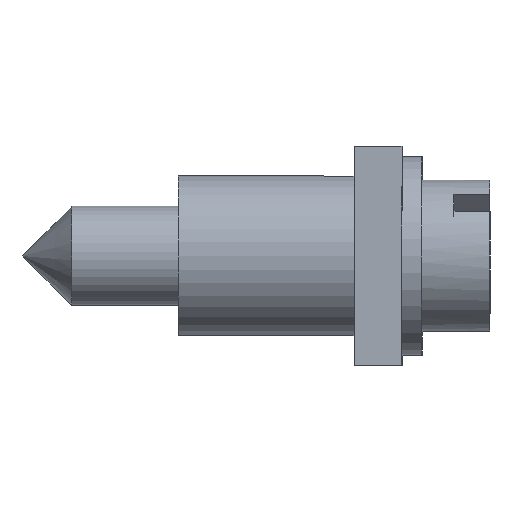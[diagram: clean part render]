
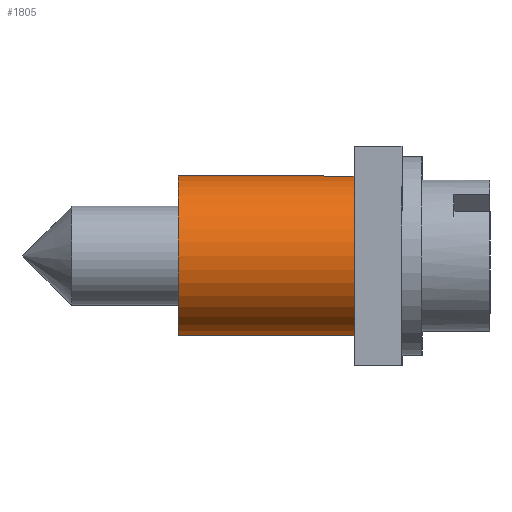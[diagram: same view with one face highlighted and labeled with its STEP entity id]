
A CAD part, left-side view. The second image highlights one B-rep face of the part: STEP entity #1805.
In plain terms, the highlighted cylindrical face has radius 2 mm (diameter 4 mm), a full revolution.
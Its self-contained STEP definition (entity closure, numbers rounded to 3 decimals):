
#1805=ADVANCED_FACE('',(#2693,#2695),#2697,.T.);
#2693=FACE_OUTER_BOUND('',#2694,.T.);
#2694=EDGE_LOOP('',(#3387));
#2695=FACE_OUTER_BOUND('',#2696,.T.);
#2696=EDGE_LOOP('',(#3388));
#2697=CYLINDRICAL_SURFACE('',#2698,2.);
#2698=AXIS2_PLACEMENT_3D('',#2699,#2700,#2701);
#2699=CARTESIAN_POINT('',(0.,0.,4.4));
#2700=DIRECTION('',(0.,0.,-1.));
#2701=DIRECTION('',(-1.,0.,0.));
#3387=ORIENTED_EDGE('',*,*,#3699,.T.);
#3388=ORIENTED_EDGE('',*,*,#3700,.F.);
#3699=EDGE_CURVE('',#4158,#4158,#4159,.T.);
#3700=EDGE_CURVE('',#4160,#4160,#4161,.T.);
#4158=VERTEX_POINT('',#5174);
#4159=CIRCLE('',#5175,2.);
#4160=VERTEX_POINT('',#5179);
#4161=CIRCLE('',#5180,2.);
#5174=CARTESIAN_POINT('',(-2.,0.,4.4));
#5175=AXIS2_PLACEMENT_3D('',#5176,#5177,#5178);
#5176=CARTESIAN_POINT('',(0.,0.,4.4));
#5177=DIRECTION('',(0.,0.,-1.));
#5178=DIRECTION('',(-1.,0.,0.));
#5179=CARTESIAN_POINT('',(-2.,0.,0.));
#5180=AXIS2_PLACEMENT_3D('',#5181,#5182,#5183);
#5181=CARTESIAN_POINT('',(0.,0.,0.));
#5182=DIRECTION('',(0.,0.,-1.));
#5183=DIRECTION('',(-1.,0.,0.));
